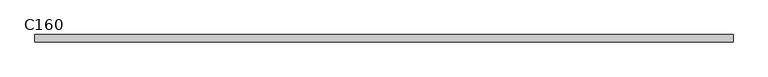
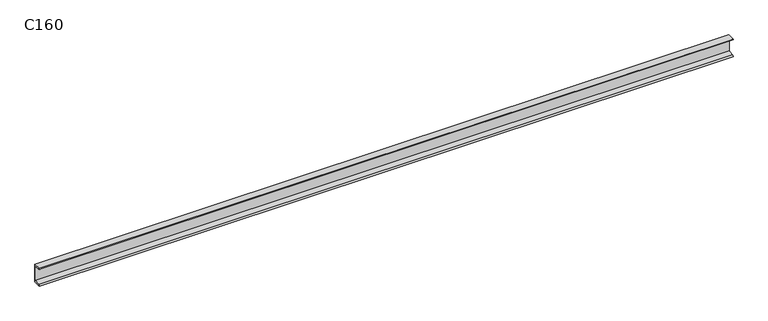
"""IFC4 building model written with IfcOpenShell, lengths in millimetres: beam geometry, RPLN C - Ceowniki normalne : C160."""

from ifc_helpers import new_model, si_unit, point, frame, frame_2d, origin, place, context, project, spatial, polyline, circle_curve, trimmed, segment, composite_curve, outline, extrude, source, transform, mapped, element, save


def c160_1365dad8(model_context):
    return source(origin(), model_context, "Body", "SweptSolid", [
        extrude(outline(composite_curve([segment(polyline([(18.4, 80.0), (18.4, -80.0), (-46.6, -80.0)]), True, "CONTINUOUS"), segment(trimmed(circle_curve(frame_2d((-36.1, -80.0)), 10.5), [point((-46.6, -80.0))], [point((-36.1, -69.5))], False, "CARTESIAN"), True, "CONTINUOUS"), segment(polyline([(-36.1, -69.5), (10.9, -62.0559313), (10.9, 62.0559313), (-36.1, 69.5)]), True, "CONTINUOUS"), segment(trimmed(circle_curve(frame_2d((-36.1, 80.0)), 10.5), [point((-36.1, 69.5))], [point((-46.6, 80.0))], False, "CARTESIAN"), True, "CONTINUOUS"), segment(polyline([(-46.6, 80.0), (18.4, 80.0)]), True, "CONTINUOUS")], self_intersect=False)), frame((-2992.5, 0.0, 0.0), z_axis=(1.0, 0.0, 0.0), x_axis=(0.0, 1.0, 0.0)), (0.0, 0.0, 1.0), 5985.0),
    ])


if __name__ == "__main__":
    model = new_model("IFC4")
    model_context = context("Model", 3, world=origin())
    ifc_project = project(units=[si_unit("LENGTHUNIT", "METRE", prefix="MILLI")], contexts=[model_context])
    site = spatial("IfcSite", under=ifc_project)
    building = spatial("IfcBuilding", under=site)
    placement = place(None, origin())
    c160_shape = c160_1365dad8(model_context)
    element("IfcBeam", 1, ObjectType="RPLN C - Ceowniki normalne : C160", at=placement, inside=building, context=model_context, shape_type="MappedRepresentation", body=[
        mapped(c160_shape, transform((0.0, 0.0, 0.0), x_axis=(1.0, 0.0, 0.0), y_axis=(0.0, 1.0, 0.0), z_axis=(0.0, 0.0, 1.0))),
    ])
    save(model, "model.ifc")
